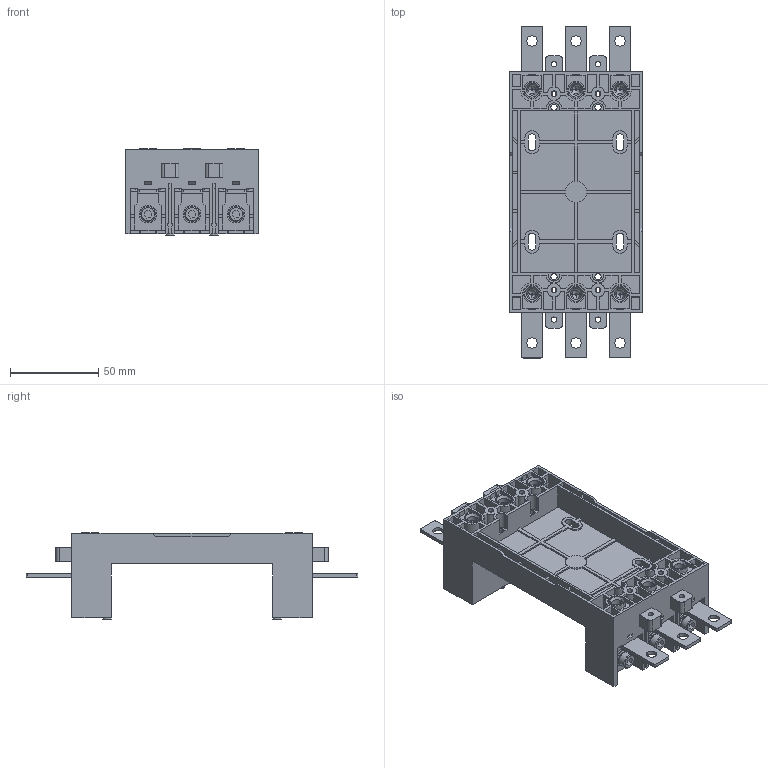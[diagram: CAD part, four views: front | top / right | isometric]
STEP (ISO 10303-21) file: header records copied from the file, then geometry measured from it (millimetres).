
FILE_DESCRIPTION (( 'STEP AP214' ), '1' );
FILE_NAME ('TGM1N-PV-63-125.STEP', '2025-12-29T07:57:44', ( '' ), ( '' ), 'SwSTEP 2.0', 'SolidWorks 2024', '' );
FILE_SCHEMA (( 'AUTOMOTIVE_DESIGN' ));
Length unit declared in the file: millimetre
Products named in the file (3): 凸台-拉伸7_1.stp; TGM1N-PV-63-125; TGM1N-PV-63-125.stp
Assembly tree (2 placements, depth 3):
  TGM1N-PV-63-125
    TGM1N-PV-63-125.stp
      凸台-拉伸7_1.stp
Bounding box: 75.5 x 188.5 x 49.2 mm (x, y, z)
Volume: 113239.7 mm3; surface area: 121443 mm2
Topology: 1 solids, 4 shells, 2852 faces, 8404 edges, 5380 vertices
Faces by surface type: plane 1970, cylinder 624, cone 162, bspline 84, torus 12
Entity records: 98493 total; most frequent: CARTESIAN_POINT 21484, ORIENTED_EDGE 16808, DIRECTION 15415, EDGE_CURVE 8404, VECTOR 6317, LINE 6317, VERTEX_POINT 5380, AXIS2_PLACEMENT_3D 4549
